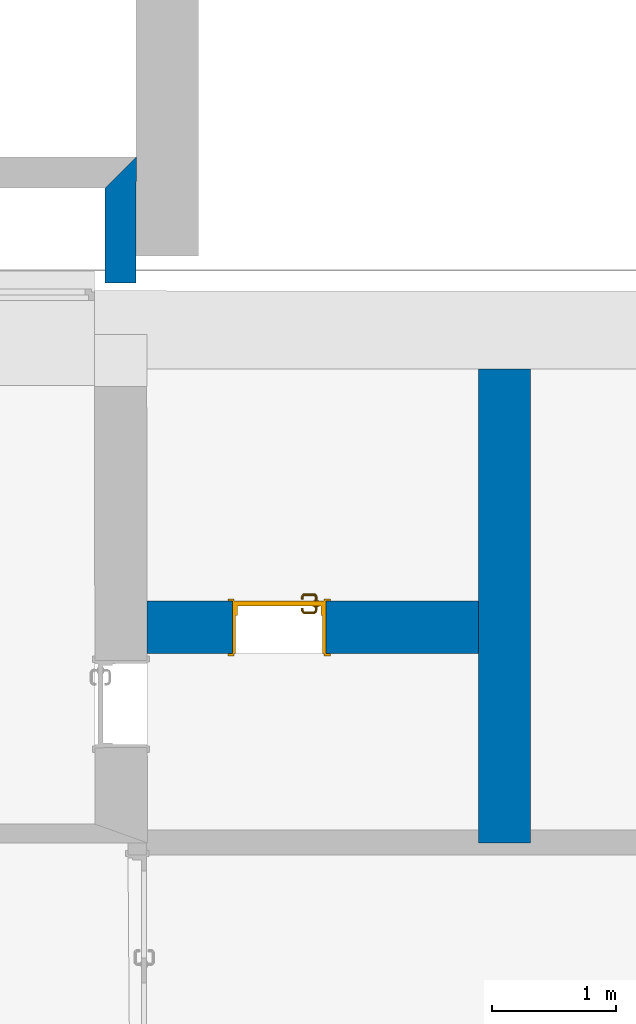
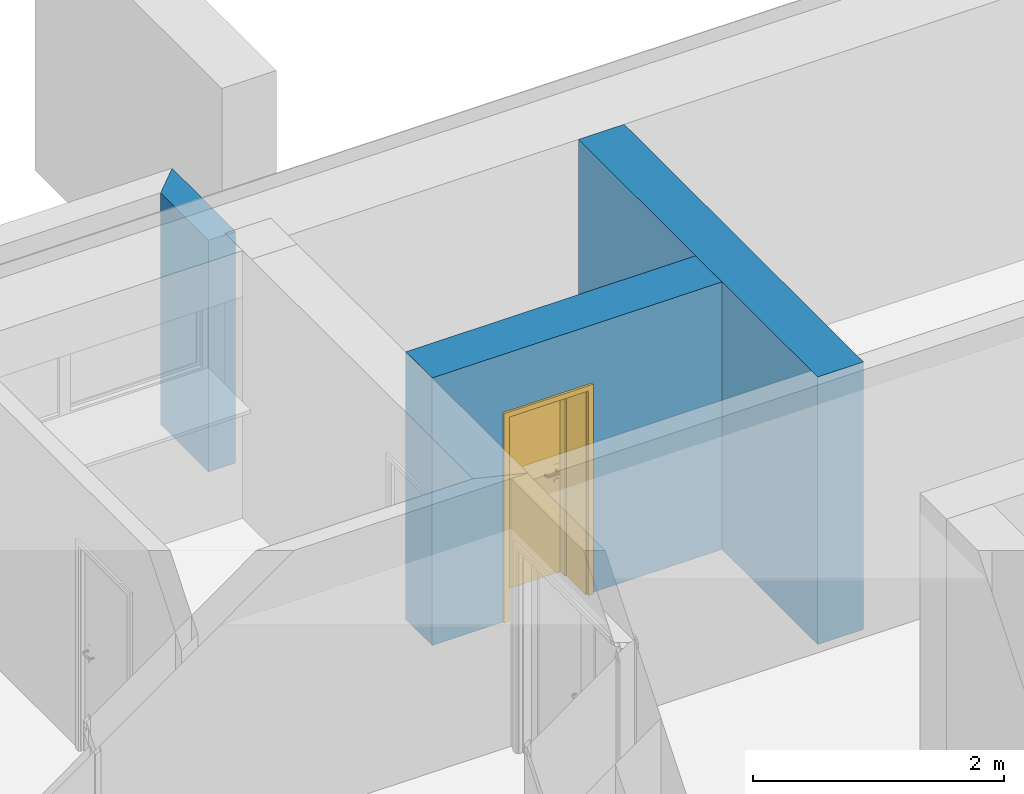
# One storey, part 10 of 127: 3 walls, 1 door, 1 opening.
"""IFC2X3 building model written with IfcOpenShell, lengths in millimetres."""

from ifc_helpers import new_model, entity, si_unit, converted_unit, derived_unit, money_unit, direction, frame, origin_with_axes, origin_2d_with_axis, place, context, subcontext, project, spatial, polyline, rectangle, outline, extrude, open_shell, faceted_brep, surface_model, source, transform, mapped, material, layer, layer_set, layer_usage, type_object, element, fill, save


model = new_model("IFC2X3")

# Units and contexts
model_context = context("Model", 3, precision=1e-05, world=origin_with_axes(), true_north=direction((0.0, 1.0)))
body_context = subcontext(model_context, "Body", "Model", "MODEL_VIEW")
ifc_project = project(units=[si_unit("LENGTHUNIT", "METRE", prefix="MILLI"), si_unit("AREAUNIT", "SQUARE_METRE"), si_unit("VOLUMEUNIT", "CUBIC_METRE"), converted_unit("PLANEANGLEUNIT", "DEGREE", entity("IfcPlaneAngleMeasure", 0.0174532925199), si_unit("PLANEANGLEUNIT", "RADIAN"), dimensions=[0, 0, 0, 0, 0, 0, 0]), si_unit("SOLIDANGLEUNIT", "STERADIAN"), money_unit("EUR"), converted_unit("TIMEUNIT", "Year", entity("IfcTimeMeasure", 31556926.0), si_unit("TIMEUNIT", "SECOND"), dimensions=[0, 0, 1, 0, 0, 0, 0]), si_unit("MASSUNIT", "GRAM", prefix="KILO"), si_unit("THERMODYNAMICTEMPERATUREUNIT", "DEGREE_CELSIUS"), si_unit("LUMINOUSINTENSITYUNIT", "LUMEN"), si_unit("ENERGYUNIT", "JOULE", prefix="MEGA"), derived_unit("THERMALCONDUCTANCEUNIT", [(si_unit("POWERUNIT", "WATT"), 1), (si_unit("LENGTHUNIT", "METRE"), -1), (si_unit("THERMODYNAMICTEMPERATUREUNIT", "KELVIN"), -1)]), derived_unit("SPECIFICHEATCAPACITYUNIT", [(si_unit("ENERGYUNIT", "JOULE"), 1), (si_unit("MASSUNIT", "GRAM", prefix="KILO"), -1), (si_unit("THERMODYNAMICTEMPERATUREUNIT", "KELVIN"), -1)]), derived_unit("MASSDENSITYUNIT", [(si_unit("MASSUNIT", "GRAM", prefix="KILO"), 1), (si_unit("VOLUMEUNIT", "CUBIC_METRE"), -1)])], contexts=[model_context])

# Site, building, storey
site_placement = place(None, origin_with_axes())
site = spatial("IfcSite", under=ifc_project, at=site_placement, Name="Site", CompositionType="ELEMENT")
building_placement = place(site_placement, origin_with_axes())
building = spatial("IfcBuilding", under=site, at=building_placement, Name="Building", CompositionType="ELEMENT")
storey_placement = place(building_placement, origin_with_axes())
storey = spatial("IfcBuildingStorey", under=building, at=storey_placement, Name="1 KORRUS", CompositionType="ELEMENT", Elevation=0.0)

# Wall
ifc_material_1 = material(Name="Kivi - Ol.Olev Konstruktsioon")
ifc_layer_1 = layer(ifc_material_1, 250.0, ventilated="UNKNOWN")
ifc_layer_set_1 = layer_set([ifc_layer_1], Name="Ol.olve tugimüür 250")
ifc_layer_usage_1 = layer_usage(ifc_layer_set_1, "AXIS2", "POSITIVE", -125.0)
wall_type_1 = type_object("IfcWallType", Name="SW - 028", PredefinedType="NOTDEFINED")
wall_1_placement = place(storey_placement, frame((60944.5006704, 47302.325893, 0.0), z_axis=(0.0, 0.0, 1.0), x_axis=(0.000248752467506, 0.999999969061, 0.0)))
element("IfcWallStandardCase", 1, at=wall_1_placement, inside=storey, type_object=wall_type_1, material=ifc_layer_usage_1, Name="Ol.olve tugimüür 250", context=body_context, shape_type="SweptSolid", body=[
    extrude(outline(polyline([(-9.09494701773e-10, -125.0), (1012.93516404, -125.0), (762.872968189, 125.0), (0.0, 125.0), (-9.09494701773e-10, -125.0)])), origin_with_axes(), (0.0, 0.0, 1.0), 2250.0),
])

# Wall, opening, door
ifc_material_2 = material(Name="Kivi -Ol.Olev Konstruktsioon")
ifc_layer_2 = layer(ifc_material_2, 420.0, ventilated="UNKNOWN")
ifc_layer_set_2 = layer_set([ifc_layer_2], Name="ol.olev ss 420")
ifc_layer_usage_2 = layer_usage(ifc_layer_set_2, "AXIS2", "POSITIVE", 0.0)
wall_type_2 = type_object("IfcWallType", Name="SW - 036", PredefinedType="NOTDEFINED")
wall_2_placement = place(storey_placement, frame((61156.9353552, 44326.5120671, 0.0), z_axis=(0.0, 0.0, 1.0), x_axis=(1.0, 0.0, 0.0)))
wall_2 = element("IfcWallStandardCase", 2, at=wall_2_placement, inside=storey, type_object=wall_type_2, material=ifc_layer_usage_2, Name="ol.olev ss 420", context=body_context, shape_type="SweptSolid", body=[
    extrude(outline(polyline([(4.54747350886e-10, 0.0), (2663.28514502, 0.0), (2663.28514502, 420.0), (-0.603039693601, 420.0), (4.54747350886e-10, 0.0)])), origin_with_axes(), (0.0, 0.0, 1.0), 2600.0),
])
opening_placement = place(wall_2_placement, frame((1060.94650376, 0.0, 0.0), z_axis=(0.0, 0.0, 1.0), x_axis=(1.0, 0.0, 0.0)))
opening = element("IfcOpeningElement", 3, at=opening_placement, cuts=wall_2, Name="Siseuks * Door 22", context=body_context, shape_type="SweptSolid", body=[
    extrude(rectangle(XDim=750.0, YDim=2000.0, at=origin_2d_with_axis()), frame((0.0, -420.0, 1000.0), z_axis=(0.0, -1.0, 0.0), x_axis=(-1.0, 0.0, 0.0)), (0.0, 0.0, -1.0), 1260.0),
    extrude(rectangle(XDim=824.0, YDim=2037.0, at=origin_2d_with_axis()), frame((0.0, 0.0, 1018.5), z_axis=(0.0, -1.0, 0.0), x_axis=(-1.0, 0.0, 0.0)), (0.0, 0.0, 1.0), 420.0),
    extrude(rectangle(XDim=824.0, YDim=2037.0, at=origin_2d_with_axis()), frame((0.0, 420.0, 1018.5), z_axis=(0.0, 1.0, 0.0), x_axis=(-1.0, 0.0, 0.0)), (0.0, 0.0, 1.0), 420.0),
])
door_style = type_object("IfcDoorStyle", Name="SU-B120C   750×2\xa0000", ConstructionType="NOTDEFINED", OperationType="SINGLE_SWING_LEFT", ParameterTakesPrecedence=False, Sizeable=False)
shared_shape = source(origin_with_axes(), body_context, "Body", "SurfaceModel", [
    faceted_brep([(375.0, -115.0, 0.0), (375.0, -420.0, 0.0), (350.0, -420.0, 0.0), (350.0, -115.0, 0.0), (375.0, -115.0, 2000.0), (375.0, -420.0, 2000.0), (350.0, -420.0, 1975.0), (350.0, -115.0, 1975.0)], [[[0, 1, 2, 3]], [[4, 5, 1, 0]], [[1, 5, 6, 2]], [[3, 2, 6, 7]], [[0, 3, 7, 4]], [[7, 6, 5, 4]]]),
    faceted_brep([(-375.0, -115.0, 2000.0), (-375.0, -420.0, 2000.0), (-350.0, -420.0, 1975.0), (-350.0, -115.0, 1975.0), (-375.0, -115.0, 0.0), (-375.0, -420.0, 0.0), (-350.0, -420.0, 0.0), (-350.0, -115.0, 0.0)], [[[0, 1, 2, 3]], [[4, 5, 1, 0]], [[1, 5, 6, 2]], [[3, 2, 6, 7]], [[0, 3, 7, 4]], [[7, 6, 5, 4]]]),
    faceted_brep([(350.0, -115.0, 1975.0), (350.0, -420.0, 1975.0), (-350.0, -420.0, 1975.0), (-350.0, -115.0, 1975.0), (375.0, -115.0, 2000.0), (375.0, -420.0, 2000.0), (-375.0, -420.0, 2000.0), (-375.0, -115.0, 2000.0)], [[[0, 1, 2, 3]], [[4, 5, 1, 0]], [[1, 5, 6, 2]], [[3, 2, 6, 7]], [[0, 3, 7, 4]], [[7, 6, 5, 4]]]),
    faceted_brep([(412.0, -439.0, 0.0), (362.0, -439.0, 0.0), (362.0, -420.0, 0.0), (412.0, -420.0, 0.0), (412.0, -439.0, 2037.0), (362.0, -439.0, 1987.0), (362.0, -420.0, 1987.0), (412.0, -420.0, 2037.0)], [[[0, 1, 2, 3]], [[0, 4, 5, 1]], [[1, 5, 6, 2]], [[3, 2, 6, 7]], [[4, 0, 3, 7]], [[5, 4, 7, 6]]]),
    faceted_brep([(-412.0, -439.0, 2037.0), (-362.0, -439.0, 1987.0), (-362.0, -420.0, 1987.0), (-412.0, -420.0, 2037.0), (-412.0, -439.0, 0.0), (-362.0, -439.0, 0.0), (-362.0, -420.0, 0.0), (-412.0, -420.0, 0.0)], [[[0, 1, 2, 3]], [[0, 4, 5, 1]], [[1, 5, 6, 2]], [[3, 2, 6, 7]], [[4, 0, 3, 7]], [[5, 4, 7, 6]]]),
    faceted_brep([(412.0, -439.0, 2037.0), (362.0, -439.0, 1987.0), (362.0, -420.0, 1987.0), (412.0, -420.0, 2037.0), (-412.0, -439.0, 2037.0), (-362.0, -439.0, 1987.0), (-362.0, -420.0, 1987.0), (-412.0, -420.0, 2037.0)], [[[0, 1, 2, 3]], [[0, 4, 5, 1]], [[1, 5, 6, 2]], [[3, 2, 6, 7]], [[4, 0, 3, 7]], [[5, 4, 7, 6]]]),
    faceted_brep([(412.0, 19.0, 0.0), (412.0, 0.0, 0.0), (362.0, 0.0, 0.0), (362.0, 19.0, 0.0), (412.0, 19.0, 2037.0), (412.0, 0.0, 2037.0), (362.0, 0.0, 1987.0), (362.0, 19.0, 1987.0)], [[[0, 1, 2, 3]], [[4, 5, 1, 0]], [[1, 5, 6, 2]], [[3, 2, 6, 7]], [[0, 3, 7, 4]], [[7, 6, 5, 4]]]),
    faceted_brep([(-412.0, 19.0, 2037.0), (-412.0, 0.0, 2037.0), (-362.0, 0.0, 1987.0), (-362.0, 19.0, 1987.0), (-412.0, 19.0, 0.0), (-412.0, 0.0, 0.0), (-362.0, 0.0, 0.0), (-362.0, 19.0, 0.0)], [[[0, 1, 2, 3]], [[4, 5, 1, 0]], [[1, 5, 6, 2]], [[3, 2, 6, 7]], [[0, 3, 7, 4]], [[7, 6, 5, 4]]]),
    faceted_brep([(412.0, 19.0, 2037.0), (412.0, 0.0, 2037.0), (362.0, 0.0, 1987.0), (362.0, 19.0, 1987.0), (-412.0, 19.0, 2037.0), (-412.0, 0.0, 2037.0), (-362.0, 0.0, 1987.0), (-362.0, 19.0, 1987.0)], [[[0, 1, 2, 3]], [[4, 5, 1, 0]], [[1, 5, 6, 2]], [[3, 2, 6, 7]], [[0, 3, 7, 4]], [[7, 6, 5, 4]]]),
    faceted_brep([(335.0, -40.0, 0.0), (335.0, -115.0, 0.0), (335.0, -115.0, 1960.0), (335.0, -40.0, 1960.0), (347.0, -40.0, 0.0), (347.0, 0.0, 0.0), (375.0, 0.0, 0.0), (375.0, -115.0, 0.0), (375.0, -115.0, 1960.0), (347.0, -40.0, 1960.0), (375.0, 0.0, 1960.0), (347.0, 0.0, 1960.0)], [[[0, 1, 2, 3]], [[4, 5, 6, 7, 1, 0]], [[1, 7, 8, 2]], [[9, 3, 2, 8, 10, 11]], [[9, 4, 0, 3]], [[11, 5, 4, 9]], [[11, 10, 6, 5]], [[6, 10, 8, 7]]]),
    faceted_brep([(-347.0, -40.0, 1960.0), (-347.0, 0.0, 1960.0), (-375.0, 0.0, 1960.0), (-375.0, -115.0, 1960.0), (-335.0, -115.0, 1960.0), (-335.0, -40.0, 1960.0), (-347.0, -40.0, 0.0), (-347.0, 0.0, 0.0), (-375.0, 0.0, 0.0), (-375.0, -115.0, 0.0), (-335.0, -115.0, 0.0), (-335.0, -40.0, 0.0)], [[[0, 1, 2, 3, 4, 5]], [[0, 6, 7, 1]], [[7, 8, 2, 1]], [[2, 8, 9, 3]], [[3, 9, 10, 4]], [[5, 4, 10, 11]], [[5, 11, 6, 0]], [[6, 11, 10, 9, 8, 7]]]),
    faceted_brep([(347.0, 0.0, 1972.0), (-347.0, 0.0, 1972.0), (-347.0, 0.0, 1960.0), (-375.0, 0.0, 1960.0), (-375.0, 0.0, 2000.0), (375.0, 0.0, 2000.0), (375.0, 0.0, 1960.0), (347.0, 0.0, 1960.0), (347.0, -40.0, 1972.0), (-347.0, -40.0, 1972.0), (-347.0, -40.0, 1960.0), (-335.0, -40.0, 1960.0), (-335.0, -115.0, 1960.0), (-375.0, -115.0, 1960.0), (-375.0, -115.0, 2000.0), (375.0, -115.0, 2000.0), (375.0, -115.0, 1960.0), (347.0, -40.0, 1960.0), (335.0, -115.0, 1960.0), (335.0, -40.0, 1960.0)], [[[0, 1, 2, 3, 4, 5, 6, 7]], [[0, 8, 9, 1]], [[1, 9, 10, 2]], [[10, 11, 12, 13, 3, 2]], [[4, 3, 13, 14]], [[5, 4, 14, 15]], [[6, 5, 15, 16]], [[17, 7, 6, 16, 18, 19]], [[7, 17, 8, 0]], [[10, 9, 8, 17, 19, 11]], [[19, 18, 12, 11]], [[12, 18, 16, 15, 14, 13]]]),
    faceted_brep([(325.5, -40.0, 1060.0), (268.5, -40.0, 1060.0), (268.5, -43.0, 1060.0), (325.5, -43.0, 1060.0), (325.5, -40.0, 870.0), (268.5, -40.0, 870.0), (268.5, -43.0, 870.0), (325.5, -43.0, 870.0)], [[[0, 1, 2, 3]], [[0, 4, 5, 1]], [[1, 5, 6, 2]], [[3, 2, 6, 7]], [[4, 0, 3, 7]], [[5, 4, 7, 6]]]),
    surface_model("IfcShellBasedSurfaceModel", [(287.0, -53.0, 1000.0), (289.928932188, -53.0, 992.928932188), (289.928932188, -72.303560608, 992.928932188), (287.0, -72.0150859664, 1000.0), (297.0, -53.0, 990.0), (297.0, -73.0, 990.0), (288.816790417, -77.8946748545, 992.928932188), (286.057796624, -76.751862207, 1000.0), (289.928932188, -53.0, 1007.07106781), (289.928932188, -72.303560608, 1007.07106781), (304.071067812, -53.0, 992.928932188), (304.071067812, -73.696439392, 992.928932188), (295.47759065, -80.6536686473, 990.0), (286.044179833, -82.0441798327, 992.928932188), (283.932537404, -79.9325374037, 1000.0), (288.816790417, -77.8946748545, 1007.07106781), (297.0, -53.0, 1010.0), (297.0, -73.0, 1010.0), (307.0, -53.0, 1000.0), (307.0, -73.9849140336, 1000.0), (302.138390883, -83.4126624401, 992.928932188), (291.142135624, -87.1421356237, 990.0), (281.894674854, -84.8167904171, 992.928932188), (280.751862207, -82.0577966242, 1000.0), (286.044179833, -82.0441798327, 1007.07106781), (295.47759065, -80.6536686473, 1010.0), (304.071067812, -53.0, 1007.07106781), (304.071067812, -73.696439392, 1007.07106781), (304.897384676, -84.5554750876, 1000.0), (296.240091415, -92.2400914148, 992.928932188), (284.653668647, -91.4775906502, 990.0), (276.303560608, -85.9289321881, 992.928932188), (276.015085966, -83.0, 1000.0), (281.894674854, -84.8167904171, 1007.07106781), (291.142135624, -87.1421356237, 1010.0), (302.138390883, -83.4126624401, 1007.07106781), (298.351733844, -94.3517338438, 1000.0), (287.41266244, -98.1383908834, 992.928932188), (277.0, -93.0, 990.0), (207.696439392, -85.9289321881, 992.928932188), (207.984914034, -83.0, 1000.0), (276.303560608, -85.9289321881, 1007.07106781), (284.653668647, -91.4775906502, 1010.0), (296.240091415, -92.2400914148, 1007.07106781), (288.555475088, -100.897384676, 1000.0), (277.696439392, -100.071067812, 992.928932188), (207.0, -93.0, 990.0), (202.105325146, -84.8167904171, 992.928932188), (203.248137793, -82.0577966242, 1000.0), (207.696439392, -85.9289321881, 1007.07106781), (277.0, -93.0, 1010.0), (287.41266244, -98.1383908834, 1007.07106781), (277.984914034, -103.0, 1000.0), (206.303560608, -100.071067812, 992.928932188), (199.346331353, -91.4775906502, 990.0), (197.955820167, -82.0441798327, 992.928932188), (200.067462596, -79.9325374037, 1000.0), (202.105325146, -84.8167904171, 1007.07106781), (207.0, -93.0, 1010.0), (277.696439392, -100.071067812, 1007.07106781), (206.015085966, -103.0, 1000.0), (196.58733756, -98.1383908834, 992.928932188), (192.857864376, -87.1421356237, 990.0), (195.183209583, -77.8946748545, 992.928932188), (197.942203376, -76.751862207, 1000.0), (197.955820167, -82.0441798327, 1007.07106781), (199.346331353, -91.4775906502, 1010.0), (206.303560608, -100.071067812, 1007.07106781), (195.444524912, -100.897384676, 1000.0), (187.759908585, -92.2400914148, 992.928932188), (188.52240935, -80.6536686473, 990.0), (194.071067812, -72.303560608, 992.928932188), (197.0, -72.0150859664, 1000.0), (195.183209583, -77.8946748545, 1007.07106781), (192.857864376, -87.1421356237, 1010.0), (196.58733756, -98.1383908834, 1007.07106781), (185.648266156, -94.3517338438, 1000.0), (181.861609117, -83.4126624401, 992.928932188), (187.0, -73.0, 990.0), (194.071067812, -53.0, 992.928932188), (197.0, -53.0, 1000.0), (194.071067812, -72.303560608, 1007.07106781), (188.52240935, -80.6536686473, 1010.0), (187.759908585, -92.2400914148, 1007.07106781), (179.102615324, -84.5554750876, 1000.0), (179.928932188, -73.696439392, 992.928932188), (187.0, -53.0, 990.0), (179.928932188, -53.0, 992.928932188), (177.0, -53.0, 1000.0), (179.928932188, -53.0, 1007.07106781), (187.0, -53.0, 1010.0), (194.071067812, -53.0, 1007.07106781), (187.0, -73.0, 1010.0), (181.861609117, -83.4126624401, 1007.07106781), (177.0, -73.9849140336, 1000.0), (179.928932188, -73.696439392, 1007.07106781)], [open_shell([[[0, 1, 2, 3]], [[1, 4, 5, 2]], [[3, 2, 6, 7]], [[8, 0, 3, 9]], [[4, 10, 11, 5]], [[2, 5, 12, 6]], [[7, 6, 13, 14]], [[9, 3, 7, 15]], [[16, 8, 9, 17]], [[10, 18, 19, 11]], [[5, 11, 20, 12]], [[6, 12, 21, 13]], [[14, 13, 22, 23]], [[15, 7, 14, 24]], [[17, 9, 15, 25]], [[26, 16, 17, 27]], [[18, 26, 27, 19]], [[11, 19, 28, 20]], [[12, 20, 29, 21]], [[13, 21, 30, 22]], [[23, 22, 31, 32]], [[24, 14, 23, 33]], [[25, 15, 24, 34]], [[27, 17, 25, 35]], [[19, 27, 35, 28]], [[20, 28, 36, 29]], [[21, 29, 37, 30]], [[22, 30, 38, 31]], [[32, 31, 39, 40]], [[33, 23, 32, 41]], [[34, 24, 33, 42]], [[35, 25, 34, 43]], [[28, 35, 43, 36]], [[29, 36, 44, 37]], [[30, 37, 45, 38]], [[31, 38, 46, 39]], [[40, 39, 47, 48]], [[41, 32, 40, 49]], [[42, 33, 41, 50]], [[43, 34, 42, 51]], [[36, 43, 51, 44]], [[37, 44, 52, 45]], [[38, 45, 53, 46]], [[39, 46, 54, 47]], [[48, 47, 55, 56]], [[49, 40, 48, 57]], [[50, 41, 49, 58]], [[51, 42, 50, 59]], [[44, 51, 59, 52]], [[45, 52, 60, 53]], [[46, 53, 61, 54]], [[47, 54, 62, 55]], [[56, 55, 63, 64]], [[57, 48, 56, 65]], [[58, 49, 57, 66]], [[59, 50, 58, 67]], [[52, 59, 67, 60]], [[53, 60, 68, 61]], [[54, 61, 69, 62]], [[55, 62, 70, 63]], [[64, 63, 71, 72]], [[65, 56, 64, 73]], [[66, 57, 65, 74]], [[67, 58, 66, 75]], [[60, 67, 75, 68]], [[61, 68, 76, 69]], [[62, 69, 77, 70]], [[63, 70, 78, 71]], [[72, 71, 79, 80]], [[73, 64, 72, 81]], [[74, 65, 73, 82]], [[75, 66, 74, 83]], [[68, 75, 83, 76]], [[69, 76, 84, 77]], [[70, 77, 85, 78]], [[71, 78, 86, 79]], [[80, 79, 86, 87, 88, 89, 90, 91]], [[81, 72, 80, 91]], [[82, 73, 81, 92]], [[83, 74, 82, 93]], [[76, 83, 93, 84]], [[77, 84, 94, 85]], [[78, 85, 87, 86]], [[85, 94, 88, 87]], [[94, 95, 89, 88]], [[95, 92, 90, 89]], [[92, 81, 91, 90]], [[93, 82, 92, 95]], [[84, 93, 95, 94]]])]),
    faceted_brep([(286.607695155, -53.0, 994.0), (285.0, -53.0, 1000.0), (284.0, -43.0, 1000.0), (285.741669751, -43.0, 993.5), (291.0, -53.0, 989.607695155), (297.0, -53.0, 988.0), (303.0, -53.0, 989.607695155), (307.392304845, -53.0, 994.0), (309.0, -53.0, 1000.0), (307.392304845, -53.0, 1006.0), (303.0, -53.0, 1010.39230485), (297.0, -53.0, 1012.0), (291.0, -53.0, 1010.39230485), (286.607695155, -53.0, 1006.0), (285.741669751, -43.0, 1006.5), (290.5, -43.0, 1011.25833025), (297.0, -43.0, 1013.0), (303.5, -43.0, 1011.25833025), (308.258330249, -43.0, 1006.5), (310.0, -43.0, 1000.0), (308.258330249, -43.0, 993.5), (303.5, -43.0, 988.741669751), (297.0, -43.0, 987.0), (290.5, -43.0, 988.741669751)], [[[0, 1, 2, 3]], [[1, 0, 4, 5, 6, 7, 8, 9, 10, 11, 12, 13]], [[1, 13, 14, 2]], [[2, 14, 15, 16, 17, 18, 19, 20, 21, 22, 23, 3]], [[4, 0, 3, 23]], [[5, 4, 23, 22]], [[6, 5, 22, 21]], [[7, 6, 21, 20]], [[8, 7, 20, 19]], [[9, 8, 19, 18]], [[10, 9, 18, 17]], [[11, 10, 17, 16]], [[12, 11, 16, 15]], [[13, 12, 15, 14]]]),
    faceted_brep([(279.679491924, -47.0, 895.0), (277.0, -47.0, 905.0), (275.0, -43.0, 905.0), (277.947441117, -43.0, 894.0), (287.0, -47.0, 887.679491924), (297.0, -47.0, 885.0), (307.0, -47.0, 887.679491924), (314.320508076, -47.0, 895.0), (317.0, -47.0, 905.0), (314.320508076, -47.0, 915.0), (307.0, -47.0, 922.320508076), (297.0, -47.0, 925.0), (287.0, -47.0, 922.320508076), (279.679491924, -47.0, 915.0), (277.947441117, -43.0, 916.0), (286.0, -43.0, 924.052558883), (297.0, -43.0, 927.0), (308.0, -43.0, 924.052558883), (316.052558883, -43.0, 916.0), (319.0, -43.0, 905.0), (316.052558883, -43.0, 894.0), (308.0, -43.0, 885.947441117), (297.0, -43.0, 883.0), (286.0, -43.0, 885.947441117)], [[[0, 1, 2, 3]], [[1, 0, 4, 5, 6, 7, 8, 9, 10, 11, 12, 13]], [[1, 13, 14, 2]], [[2, 14, 15, 16, 17, 18, 19, 20, 21, 22, 23, 3]], [[4, 0, 3, 23]], [[5, 4, 23, 22]], [[6, 5, 22, 21]], [[7, 6, 21, 20]], [[8, 7, 20, 19]], [[9, 8, 19, 18]], [[10, 9, 18, 17]], [[11, 10, 17, 16]], [[12, 11, 16, 15]], [[13, 12, 15, 14]]]),
    faceted_brep([(292.050252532, -49.0, 909.050252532), (290.0, -49.0, 914.0), (289.0, -47.0, 914.0), (291.343145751, -47.0, 908.343145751), (297.0, -49.0, 907.0), (301.949747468, -49.0, 909.050252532), (304.0, -49.0, 914.0), (301.949747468, -49.0, 918.949747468), (297.0, -49.0, 921.0), (292.050252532, -49.0, 918.949747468), (291.343145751, -47.0, 919.656854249), (297.0, -47.0, 922.0), (302.656854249, -47.0, 919.656854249), (305.0, -47.0, 914.0), (302.656854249, -47.0, 908.343145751), (297.0, -47.0, 906.0)], [[[0, 1, 2, 3]], [[1, 0, 4, 5, 6, 7, 8, 9]], [[1, 9, 10, 2]], [[2, 10, 11, 12, 13, 14, 15, 3]], [[4, 0, 3, 15]], [[5, 4, 15, 14]], [[6, 5, 14, 13]], [[7, 6, 13, 12]], [[8, 7, 12, 11]], [[9, 8, 11, 10]]]),
    faceted_brep([(325.5, 0.0, 1060.0), (325.5, 3.0, 1060.0), (268.5, 3.0, 1060.0), (268.5, 0.0, 1060.0), (325.5, 0.0, 870.0), (325.5, 3.0, 870.0), (268.5, 3.0, 870.0), (268.5, 0.0, 870.0)], [[[0, 1, 2, 3]], [[4, 5, 1, 0]], [[1, 5, 6, 2]], [[3, 2, 6, 7]], [[0, 3, 7, 4]], [[7, 6, 5, 4]]]),
    surface_model("IfcShellBasedSurfaceModel", [(287.0, 13.0, 1000.0), (287.0, 32.0150859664, 1000.0), (289.928932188, 32.303560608, 992.928932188), (289.928932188, 13.0, 992.928932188), (289.928932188, 13.0, 1007.07106781), (289.928932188, 32.303560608, 1007.07106781), (286.057796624, 36.751862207, 1000.0), (288.816790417, 37.8946748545, 992.928932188), (297.0, 33.0, 990.0), (297.0, 13.0, 990.0), (297.0, 13.0, 1010.0), (297.0, 33.0, 1010.0), (288.816790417, 37.8946748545, 1007.07106781), (283.932537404, 39.9325374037, 1000.0), (286.044179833, 42.0441798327, 992.928932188), (295.47759065, 40.6536686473, 990.0), (304.071067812, 33.696439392, 992.928932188), (304.071067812, 13.0, 992.928932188), (304.071067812, 13.0, 1007.07106781), (304.071067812, 33.696439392, 1007.07106781), (295.47759065, 40.6536686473, 1010.0), (286.044179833, 42.0441798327, 1007.07106781), (280.751862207, 42.0577966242, 1000.0), (281.894674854, 44.8167904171, 992.928932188), (291.142135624, 47.1421356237, 990.0), (302.138390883, 43.4126624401, 992.928932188), (307.0, 33.9849140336, 1000.0), (307.0, 13.0, 1000.0), (302.138390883, 43.4126624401, 1007.07106781), (291.142135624, 47.1421356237, 1010.0), (281.894674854, 44.8167904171, 1007.07106781), (276.015085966, 43.0, 1000.0), (276.303560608, 45.9289321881, 992.928932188), (284.653668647, 51.4775906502, 990.0), (296.240091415, 52.2400914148, 992.928932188), (304.897384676, 44.5554750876, 1000.0), (296.240091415, 52.2400914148, 1007.07106781), (284.653668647, 51.4775906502, 1010.0), (276.303560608, 45.9289321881, 1007.07106781), (207.984914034, 43.0, 1000.0), (207.696439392, 45.9289321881, 992.928932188), (277.0, 53.0, 990.0), (287.41266244, 58.1383908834, 992.928932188), (298.351733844, 54.3517338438, 1000.0), (287.41266244, 58.1383908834, 1007.07106781), (277.0, 53.0, 1010.0), (207.696439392, 45.9289321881, 1007.07106781), (203.248137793, 42.0577966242, 1000.0), (202.105325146, 44.8167904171, 992.928932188), (207.0, 53.0, 990.0), (277.696439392, 60.0710678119, 992.928932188), (288.555475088, 60.8973846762, 1000.0), (277.696439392, 60.0710678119, 1007.07106781), (207.0, 53.0, 1010.0), (202.105325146, 44.8167904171, 1007.07106781), (200.067462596, 39.9325374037, 1000.0), (197.955820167, 42.0441798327, 992.928932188), (199.346331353, 51.4775906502, 990.0), (206.303560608, 60.0710678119, 992.928932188), (277.984914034, 63.0, 1000.0), (206.303560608, 60.0710678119, 1007.07106781), (199.346331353, 51.4775906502, 1010.0), (197.955820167, 42.0441798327, 1007.07106781), (197.942203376, 36.751862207, 1000.0), (195.183209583, 37.8946748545, 992.928932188), (192.857864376, 47.1421356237, 990.0), (196.58733756, 58.1383908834, 992.928932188), (206.015085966, 63.0, 1000.0), (196.58733756, 58.1383908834, 1007.07106781), (192.857864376, 47.1421356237, 1010.0), (195.183209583, 37.8946748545, 1007.07106781), (197.0, 32.0150859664, 1000.0), (194.071067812, 32.303560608, 992.928932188), (188.52240935, 40.6536686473, 990.0), (187.759908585, 52.2400914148, 992.928932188), (195.444524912, 60.8973846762, 1000.0), (187.759908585, 52.2400914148, 1007.07106781), (188.52240935, 40.6536686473, 1010.0), (194.071067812, 32.303560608, 1007.07106781), (197.0, 13.0, 1000.0), (194.071067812, 13.0, 992.928932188), (187.0, 33.0, 990.0), (181.861609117, 43.4126624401, 992.928932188), (185.648266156, 54.3517338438, 1000.0), (181.861609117, 43.4126624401, 1007.07106781), (187.0, 33.0, 1010.0), (194.071067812, 13.0, 1007.07106781), (187.0, 13.0, 1010.0), (179.928932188, 13.0, 1007.07106781), (177.0, 13.0, 1000.0), (179.928932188, 13.0, 992.928932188), (187.0, 13.0, 990.0), (179.928932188, 33.696439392, 992.928932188), (179.102615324, 44.5554750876, 1000.0), (179.928932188, 33.696439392, 1007.07106781), (177.0, 33.9849140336, 1000.0)], [open_shell([[[0, 1, 2, 3]], [[4, 5, 1, 0]], [[1, 6, 7, 2]], [[3, 2, 8, 9]], [[10, 11, 5, 4]], [[5, 12, 6, 1]], [[6, 13, 14, 7]], [[2, 7, 15, 8]], [[9, 8, 16, 17]], [[18, 19, 11, 10]], [[11, 20, 12, 5]], [[12, 21, 13, 6]], [[13, 22, 23, 14]], [[7, 14, 24, 15]], [[8, 15, 25, 16]], [[17, 16, 26, 27]], [[27, 26, 19, 18]], [[19, 28, 20, 11]], [[20, 29, 21, 12]], [[21, 30, 22, 13]], [[22, 31, 32, 23]], [[14, 23, 33, 24]], [[15, 24, 34, 25]], [[16, 25, 35, 26]], [[26, 35, 28, 19]], [[28, 36, 29, 20]], [[29, 37, 30, 21]], [[30, 38, 31, 22]], [[31, 39, 40, 32]], [[23, 32, 41, 33]], [[24, 33, 42, 34]], [[25, 34, 43, 35]], [[35, 43, 36, 28]], [[36, 44, 37, 29]], [[37, 45, 38, 30]], [[38, 46, 39, 31]], [[39, 47, 48, 40]], [[32, 40, 49, 41]], [[33, 41, 50, 42]], [[34, 42, 51, 43]], [[43, 51, 44, 36]], [[44, 52, 45, 37]], [[45, 53, 46, 38]], [[46, 54, 47, 39]], [[47, 55, 56, 48]], [[40, 48, 57, 49]], [[41, 49, 58, 50]], [[42, 50, 59, 51]], [[51, 59, 52, 44]], [[52, 60, 53, 45]], [[53, 61, 54, 46]], [[54, 62, 55, 47]], [[55, 63, 64, 56]], [[48, 56, 65, 57]], [[49, 57, 66, 58]], [[50, 58, 67, 59]], [[59, 67, 60, 52]], [[60, 68, 61, 53]], [[61, 69, 62, 54]], [[62, 70, 63, 55]], [[63, 71, 72, 64]], [[56, 64, 73, 65]], [[57, 65, 74, 66]], [[58, 66, 75, 67]], [[67, 75, 68, 60]], [[68, 76, 69, 61]], [[69, 77, 70, 62]], [[70, 78, 71, 63]], [[71, 79, 80, 72]], [[64, 72, 81, 73]], [[65, 73, 82, 74]], [[66, 74, 83, 75]], [[75, 83, 76, 68]], [[76, 84, 77, 69]], [[77, 85, 78, 70]], [[78, 86, 79, 71]], [[79, 86, 87, 88, 89, 90, 91, 80]], [[72, 80, 91, 81]], [[73, 81, 92, 82]], [[74, 82, 93, 83]], [[83, 93, 84, 76]], [[84, 94, 85, 77]], [[85, 87, 86, 78]], [[94, 88, 87, 85]], [[95, 89, 88, 94]], [[92, 90, 89, 95]], [[81, 91, 90, 92]], [[82, 92, 95, 93]], [[93, 95, 94, 84]]])]),
    faceted_brep([(286.607695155, 13.0, 994.0), (285.741669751, 3.0, 993.5), (284.0, 3.0, 1000.0), (285.0, 13.0, 1000.0), (291.0, 13.0, 989.607695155), (290.5, 3.0, 988.741669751), (297.0, 3.0, 987.0), (303.5, 3.0, 988.741669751), (308.258330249, 3.0, 993.5), (310.0, 3.0, 1000.0), (308.258330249, 3.0, 1006.5), (303.5, 3.0, 1011.25833025), (297.0, 3.0, 1013.0), (290.5, 3.0, 1011.25833025), (285.741669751, 3.0, 1006.5), (286.607695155, 13.0, 1006.0), (291.0, 13.0, 1010.39230485), (297.0, 13.0, 1012.0), (303.0, 13.0, 1010.39230485), (307.392304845, 13.0, 1006.0), (309.0, 13.0, 1000.0), (307.392304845, 13.0, 994.0), (303.0, 13.0, 989.607695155), (297.0, 13.0, 988.0)], [[[0, 1, 2, 3]], [[4, 5, 1, 0]], [[2, 1, 5, 6, 7, 8, 9, 10, 11, 12, 13, 14]], [[3, 2, 14, 15]], [[3, 15, 16, 17, 18, 19, 20, 21, 22, 23, 4, 0]], [[23, 6, 5, 4]], [[22, 7, 6, 23]], [[21, 8, 7, 22]], [[20, 9, 8, 21]], [[19, 10, 9, 20]], [[18, 11, 10, 19]], [[17, 12, 11, 18]], [[16, 13, 12, 17]], [[15, 14, 13, 16]]]),
    faceted_brep([(279.679491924, 7.0, 895.0), (277.947441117, 3.0, 894.0), (275.0, 3.0, 905.0), (277.0, 7.0, 905.0), (287.0, 7.0, 887.679491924), (286.0, 3.0, 885.947441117), (297.0, 3.0, 883.0), (308.0, 3.0, 885.947441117), (316.052558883, 3.0, 894.0), (319.0, 3.0, 905.0), (316.052558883, 3.0, 916.0), (308.0, 3.0, 924.052558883), (297.0, 3.0, 927.0), (286.0, 3.0, 924.052558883), (277.947441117, 3.0, 916.0), (279.679491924, 7.0, 915.0), (287.0, 7.0, 922.320508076), (297.0, 7.0, 925.0), (307.0, 7.0, 922.320508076), (314.320508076, 7.0, 915.0), (317.0, 7.0, 905.0), (314.320508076, 7.0, 895.0), (307.0, 7.0, 887.679491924), (297.0, 7.0, 885.0)], [[[0, 1, 2, 3]], [[4, 5, 1, 0]], [[2, 1, 5, 6, 7, 8, 9, 10, 11, 12, 13, 14]], [[3, 2, 14, 15]], [[3, 15, 16, 17, 18, 19, 20, 21, 22, 23, 4, 0]], [[23, 6, 5, 4]], [[22, 7, 6, 23]], [[21, 8, 7, 22]], [[20, 9, 8, 21]], [[19, 10, 9, 20]], [[18, 11, 10, 19]], [[17, 12, 11, 18]], [[16, 13, 12, 17]], [[15, 14, 13, 16]]]),
    faceted_brep([(292.050252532, 9.0, 909.050252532), (291.343145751, 7.0, 908.343145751), (289.0, 7.0, 914.0), (290.0, 9.0, 914.0), (297.0, 9.0, 907.0), (297.0, 7.0, 906.0), (302.656854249, 7.0, 908.343145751), (305.0, 7.0, 914.0), (302.656854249, 7.0, 919.656854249), (297.0, 7.0, 922.0), (291.343145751, 7.0, 919.656854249), (292.050252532, 9.0, 918.949747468), (297.0, 9.0, 921.0), (301.949747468, 9.0, 918.949747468), (304.0, 9.0, 914.0), (301.949747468, 9.0, 909.050252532)], [[[0, 1, 2, 3]], [[4, 5, 1, 0]], [[2, 1, 5, 6, 7, 8, 9, 10]], [[3, 2, 10, 11]], [[3, 11, 12, 13, 14, 15, 4, 0]], [[15, 6, 5, 4]], [[14, 7, 6, 15]], [[13, 8, 7, 14]], [[12, 9, 8, 13]], [[11, 10, 9, 12]]]),
    faceted_brep([(-347.0, 0.0, 0.0), (347.0, 0.0, 0.0), (347.0, -40.0, 0.0), (-347.0, -40.0, 0.0), (-347.0, 0.0, 1972.0), (347.0, 0.0, 1972.0), (347.0, -40.0, 1972.0), (-347.0, -40.0, 1972.0)], [[[0, 1, 2, 3]], [[0, 4, 5, 1]], [[1, 5, 6, 2]], [[3, 2, 6, 7]], [[4, 0, 3, 7]], [[5, 4, 7, 6]]]),
])
door_placement = place(opening_placement, frame((-375.0, 0.0, 0.0), z_axis=(0.0, 0.0, 1.0), x_axis=(1.0, 0.0, 0.0)))
door = element("IfcDoor", 4, at=door_placement, inside=storey, type_object=door_style, Name="Siseuks * Door 22", OverallHeight=2000.0, OverallWidth=750.0, context=body_context, shape_type="MappedRepresentation", body=[
    mapped(shared_shape, transform((375.0, 420.0, 0.0))),
])
fill(opening, door)

# Wall
ifc_layer_usage_3 = layer_usage(ifc_layer_set_2, "AXIS2", "POSITIVE", 0.0)
wall_3_placement = place(storey_placement, frame((64240.2205002, 42803.8718916, 0.0), z_axis=(0.0, 0.0, 1.0), x_axis=(0.0, 1.0, 0.0)))
element("IfcWallStandardCase", 5, at=wall_3_placement, inside=storey, type_object=wall_type_2, material=ifc_layer_usage_3, Name="ol.olev ss 420", context=body_context, shape_type="SweptSolid", body=[
    extrude(outline(polyline([(0.0, 0.0), (3806.77584261, 0.0), (3806.88031865, 420.0), (0.0, 420.0), (0.0, 0.0)])), origin_with_axes(), (0.0, 0.0, 1.0), 2600.0),
])

save(model, "model.ifc")
